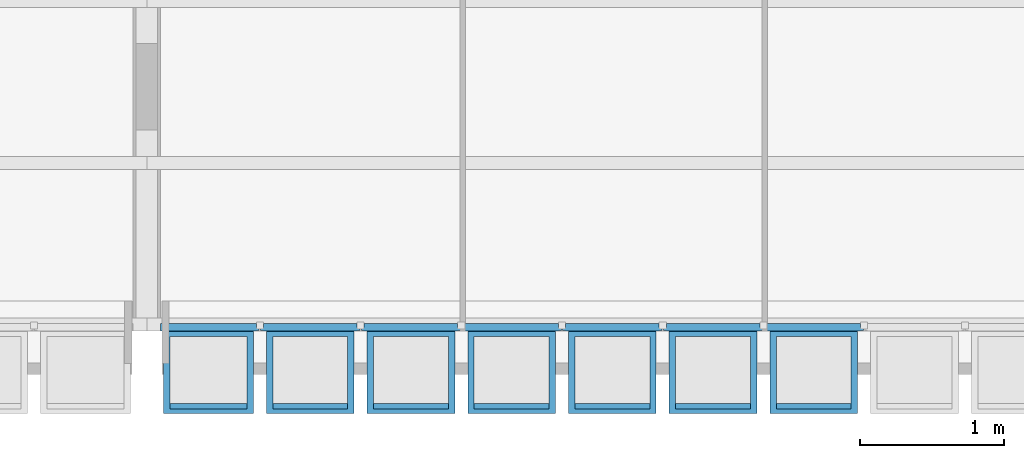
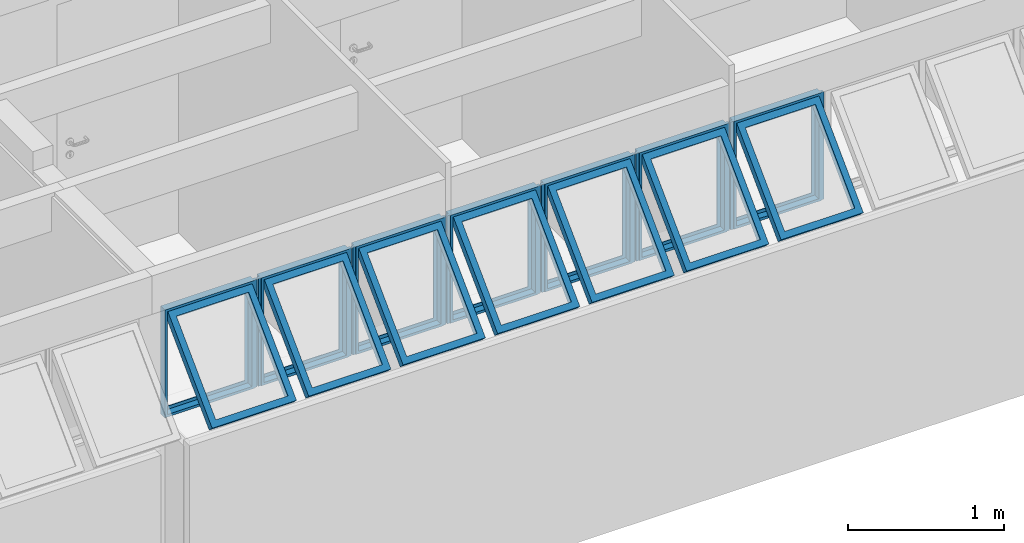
# One storey, part 28 of 37: 7 building element parts, 8 elements without a shape of their own.
"""IFC2X3 building model written with IfcOpenShell, lengths in millimetres."""

from ifc_helpers import new_model, entity, si_unit, converted_unit, derived_unit, money_unit, direction, frame, origin_with_axes, place, context, subcontext, project, spatial, faceted_brep, source, transform, mapped, material, type_object, element, aggregate, save


model = new_model("IFC2X3")

# Units and contexts
model_context = context("Model", 3, precision=0.01, world=origin_with_axes(), true_north=direction((0.0, 1.0)))
body_context = subcontext(model_context, "Body", "Model", "MODEL_VIEW")
ifc_project = project(units=[si_unit("LENGTHUNIT", "METRE", prefix="MILLI"), si_unit("AREAUNIT", "SQUARE_METRE"), si_unit("VOLUMEUNIT", "CUBIC_METRE"), converted_unit("PLANEANGLEUNIT", "DEGREE", entity("IfcPlaneAngleMeasure", 0.0174532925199), si_unit("PLANEANGLEUNIT", "RADIAN"), dimensions=[0, 0, 0, 0, 0, 0, 0]), money_unit("USD"), converted_unit("TIMEUNIT", "Year", entity("IfcTimeMeasure", 31556926.0), si_unit("TIMEUNIT", "SECOND"), dimensions=[0, 0, 1, 0, 0, 0, 0]), si_unit("MASSUNIT", "GRAM", prefix="KILO"), si_unit("THERMODYNAMICTEMPERATUREUNIT", "DEGREE_CELSIUS"), si_unit("LUMINOUSINTENSITYUNIT", "LUMEN"), si_unit("ENERGYUNIT", "JOULE", prefix="MEGA"), derived_unit("THERMALCONDUCTANCEUNIT", [(si_unit("POWERUNIT", "WATT"), 1), (si_unit("LENGTHUNIT", "METRE"), -1), (si_unit("THERMODYNAMICTEMPERATUREUNIT", "KELVIN"), -1)]), derived_unit("SPECIFICHEATCAPACITYUNIT", [(si_unit("ENERGYUNIT", "JOULE"), 1), (si_unit("MASSUNIT", "GRAM", prefix="KILO"), -1), (si_unit("THERMODYNAMICTEMPERATUREUNIT", "KELVIN"), -1)]), derived_unit("MASSDENSITYUNIT", [(si_unit("MASSUNIT", "GRAM", prefix="KILO"), 1), (si_unit("VOLUMEUNIT", "CUBIC_METRE"), -1)])], contexts=[model_context])

# Site, building, storey
site_placement = place(None, origin_with_axes())
site = spatial("IfcSite", under=ifc_project, at=site_placement, Name="Local", CompositionType="ELEMENT")
building_placement = place(site_placement, origin_with_axes())
building = spatial("IfcBuilding", under=site, at=building_placement, Name="Construção", CompositionType="ELEMENT")
storey_placement = place(building_placement, frame((0.0, 0.0, 5300.0), z_axis=(0.0, 0.0, 1.0), x_axis=(1.0, 0.0, 0.0)))
storey = spatial("IfcBuildingStorey", under=building, at=storey_placement, Name="Terceiro Pavimento", CompositionType="ELEMENT", Elevation=5300.0)

# Window, plates, building element parts
window_style = type_object("IfcWindowStyle", Name="Tipo de Parede Cortina", ConstructionType="NOTDEFINED", OperationType="NOTDEFINED", ParameterTakesPrecedence=False, Sizeable=False)
window_placement = place(storey_placement, frame((8520.0, 315.020977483, 1355.02054151), z_axis=(0.0, 0.0, 1.0), x_axis=(1.0, 0.0, 0.0)))
window = element("IfcWindow", 1, at=window_placement, inside=storey, type_object=window_style, Name="APTO10-JANELA-001")
plate_type_1 = type_object("IfcPlateType", Name="Painel Principal 690 x 845 x 20", PredefinedType="CURTAIN_PANEL")
plate_1_placement = place(window_placement, frame((0.0, 0.0, 422.499945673), z_axis=(0.0, 0.0, 1.0), x_axis=(1.0, 0.0, 0.0)))
plate_1 = element("IfcPlate", 2, at=plate_1_placement, type_object=plate_type_1, Name="APTO10-Painel-Prin-030")
ifc_material = material(Name="Alumínio")
shared_shape_1 = source(origin_with_axes(), body_context, "Body", "Brep", [
    faceted_brep([(-25.0000036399, 0.0, -40.0), (-25.0000036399, 0.0, -35.0), (-674.999997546, 0.0, -35.0), (-674.999997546, 0.0, -40.0), (-70.0000036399, 45.0, -40.0), (-70.0000036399, 45.0, -35.0), (-629.999997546, 45.0, -35.0), (-629.999997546, 45.0, -40.0)], [[[0, 1, 2, 3]], [[4, 5, 1, 0]], [[1, 5, 6, 2]], [[3, 2, 6, 7]], [[0, 3, 7, 4]], [[7, 6, 5, 4]]]),
    faceted_brep([(-674.999997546, 0.0, -40.0), (-674.999997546, 0.0, -35.0), (-674.999997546, 844.999891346, -35.0), (-674.999997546, 844.999891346, -40.0), (-629.999997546, 45.0, -40.0), (-629.999997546, 45.0, -35.0), (-629.999997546, 799.999891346, -35.0), (-629.999997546, 799.999891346, -40.0)], [[[0, 1, 2, 3]], [[4, 5, 1, 0]], [[1, 5, 6, 2]], [[3, 2, 6, 7]], [[0, 3, 7, 4]], [[7, 6, 5, 4]]]),
    faceted_brep([(-25.0000036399, 844.999891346, -40.0), (-25.0000036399, 844.999891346, -35.0), (-70.0000036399, 799.999891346, -35.0), (-70.0000036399, 799.999891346, -40.0), (-674.999997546, 844.999891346, -40.0), (-674.999997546, 844.999891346, -35.0), (-629.999997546, 799.999891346, -35.0), (-629.999997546, 799.999891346, -40.0)], [[[0, 1, 2, 3]], [[4, 5, 1, 0]], [[1, 5, 6, 2]], [[3, 2, 6, 7]], [[0, 3, 7, 4]], [[7, 6, 5, 4]]]),
    faceted_brep([(-25.0000036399, 0.0, -40.0), (-25.0000036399, 0.0, -35.0), (-70.0000036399, 45.0, -35.0), (-70.0000036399, 45.0, -40.0), (-25.0000036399, 844.999891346, -40.0), (-25.0000036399, 844.999891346, -35.0), (-70.0000036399, 799.999891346, -35.0), (-70.0000036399, 799.999891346, -40.0)], [[[0, 1, 2, 3]], [[4, 5, 1, 0]], [[1, 5, 6, 2]], [[3, 2, 6, 7]], [[0, 3, 7, 4]], [[7, 6, 5, 4]]]),
    faceted_brep([(-25.0000036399, 0.0, -35.0), (-25.0000036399, 0.0, 15.0), (-674.999997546, 0.0, 15.0), (-674.999997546, 0.0, -35.0), (-45.0000036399, 20.0, -35.0), (-45.0000036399, 20.0, 15.0), (-654.999997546, 20.0, 15.0), (-654.999997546, 20.0, -35.0)], [[[0, 1, 2, 3]], [[4, 5, 1, 0]], [[1, 5, 6, 2]], [[3, 2, 6, 7]], [[0, 3, 7, 4]], [[7, 6, 5, 4]]]),
    faceted_brep([(-674.999997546, 0.0, -35.0), (-674.999997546, 0.0, 15.0), (-674.999997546, 844.999891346, 15.0), (-674.999997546, 844.999891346, -35.0), (-654.999997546, 20.0, -35.0), (-654.999997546, 20.0, 15.0), (-654.999997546, 824.999891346, 15.0), (-654.999997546, 824.999891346, -35.0)], [[[0, 1, 2, 3]], [[4, 5, 1, 0]], [[1, 5, 6, 2]], [[3, 2, 6, 7]], [[0, 3, 7, 4]], [[7, 6, 5, 4]]]),
    faceted_brep([(-25.0000036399, 844.999891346, -35.0), (-25.0000036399, 844.999891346, 15.0), (-45.0000036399, 824.999891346, 15.0), (-45.0000036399, 824.999891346, -35.0), (-674.999997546, 844.999891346, -35.0), (-674.999997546, 844.999891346, 15.0), (-654.999997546, 824.999891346, 15.0), (-654.999997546, 824.999891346, -35.0)], [[[0, 1, 2, 3]], [[4, 5, 1, 0]], [[1, 5, 6, 2]], [[3, 2, 6, 7]], [[0, 3, 7, 4]], [[7, 6, 5, 4]]]),
    faceted_brep([(-25.0000036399, 0.0, -35.0), (-25.0000036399, 0.0, 15.0), (-45.0000036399, 20.0, 15.0), (-45.0000036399, 20.0, -35.0), (-25.0000036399, 844.999891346, -35.0), (-25.0000036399, 844.999891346, 15.0), (-45.0000036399, 824.999891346, 15.0), (-45.0000036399, 824.999891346, -35.0)], [[[0, 1, 2, 3]], [[4, 5, 1, 0]], [[1, 5, 6, 2]], [[3, 2, 6, 7]], [[0, 3, 7, 4]], [[7, 6, 5, 4]]]),
    faceted_brep([(-694.999995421, 0.0, -10.0), (-694.999995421, 0.0, 10.0), (-694.999995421, 844.999891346, 10.0), (-694.999995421, 844.999891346, -10.0), (-674.999997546, 0.0, -10.0), (-674.999997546, 0.0, 10.0), (-674.999997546, 844.999891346, 10.0), (-674.999997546, 844.999891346, -10.0)], [[[0, 1, 2, 3]], [[4, 5, 1, 0]], [[1, 5, 6, 2]], [[3, 2, 6, 7]], [[0, 3, 7, 4]], [[7, 6, 5, 4]]]),
    faceted_brep([(-5.00000576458, 844.999891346, -10.0), (-5.00000576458, 844.999891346, 10.0), (-5.00000576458, 0.0, 10.0), (-5.00000576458, 0.0, -10.0), (-25.0000036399, 844.999891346, -10.0), (-25.0000036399, 844.999891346, 10.0), (-25.0000036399, 0.0, 10.0), (-25.0000036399, 0.0, -10.0)], [[[0, 1, 2, 3]], [[4, 5, 1, 0]], [[1, 5, 6, 2]], [[3, 2, 6, 7]], [[0, 3, 7, 4]], [[7, 6, 5, 4]]]),
    faceted_brep([(-90.0000036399, 252.243475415, 517.045737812), (-90.0000036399, 291.13434838, 555.936610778), (-90.0000036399, 796.715620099, 50.3553390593), (-90.0000036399, 757.824747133, 11.4644660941), (-45.0000036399, 220.423670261, 548.865542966), (-45.0000036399, 259.314543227, 587.756415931), (-45.0000036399, 828.535425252, 18.5355339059), (-45.0000036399, 789.644552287, -20.3553390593)], [[[0, 1, 2, 3]], [[4, 5, 1, 0]], [[1, 5, 6, 2]], [[3, 2, 6, 7]], [[0, 3, 7, 4]], [[7, 6, 5, 4]]]),
    faceted_brep([(-654.999997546, 220.423670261, 548.865542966), (-654.999997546, 259.314543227, 587.756415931), (-654.999997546, 828.535425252, 18.5355339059), (-654.999997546, 789.644552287, -20.3553390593), (-609.999997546, 252.243475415, 517.045737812), (-609.999997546, 291.13434838, 555.936610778), (-609.999997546, 796.715620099, 50.3553390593), (-609.999997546, 757.824747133, 11.4644660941)], [[[0, 1, 2, 3]], [[4, 5, 1, 0]], [[1, 5, 6, 2]], [[3, 2, 6, 7]], [[0, 3, 7, 4]], [[7, 6, 5, 4]]]),
    faceted_brep([(-654.999997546, 220.423670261, 548.865542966), (-654.999997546, 259.314543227, 587.756415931), (-609.999997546, 291.13434838, 555.936610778), (-609.999997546, 252.243475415, 517.045737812), (-45.0000036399, 220.423670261, 548.865542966), (-45.0000036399, 259.314543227, 587.756415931), (-90.0000036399, 291.13434838, 555.936610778), (-90.0000036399, 252.243475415, 517.045737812)], [[[0, 1, 2, 3]], [[4, 5, 1, 0]], [[1, 5, 6, 2]], [[3, 2, 6, 7]], [[0, 3, 7, 4]], [[7, 6, 5, 4]]]),
    faceted_brep([(-45.0000036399, 789.644552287, -20.3553390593), (-45.0000036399, 828.535425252, 18.5355339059), (-90.0000036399, 796.715620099, 50.3553390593), (-90.0000036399, 757.824747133, 11.4644660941), (-654.999997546, 789.644552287, -20.3553390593), (-654.999997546, 828.535425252, 18.5355339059), (-609.999997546, 796.715620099, 50.3553390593), (-609.999997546, 757.824747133, 11.4644660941)], [[[0, 1, 2, 3]], [[4, 5, 1, 0]], [[1, 5, 6, 2]], [[3, 2, 6, 7]], [[0, 3, 7, 4]], [[7, 6, 5, 4]]]),
])
building_element_part_1_placement = place(plate_1_placement, origin_with_axes())
building_element_part_1 = element("IfcBuildingElementPart", 3, at=building_element_part_1_placement, material=ifc_material, Name="Alumínio", context=body_context, shape_type="MappedRepresentation", body=[
    mapped(shared_shape_1, transform((350.0, 0.0, -422.499945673), x_axis=(1.0, 0.0, 0.0), y_axis=(0.0, 0.0, 1.0), z_axis=(0.0, -1.0, 0.0))),
])
aggregate(plate_1, [building_element_part_1])
plate_2_placement = place(window_placement, frame((700.0, 0.0, 422.499945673), z_axis=(0.0, 0.0, 1.0), x_axis=(1.0, 0.0, 0.0)))
plate_2 = element("IfcPlate", 4, at=plate_2_placement, type_object=plate_type_1, Name="APTO10-Painel-Prin-020")
building_element_part_2_placement = place(plate_2_placement, origin_with_axes())
building_element_part_2 = element("IfcBuildingElementPart", 5, at=building_element_part_2_placement, material=ifc_material, Name="Alumínio", context=body_context, shape_type="MappedRepresentation", body=[
    mapped(shared_shape_1, transform((350.0, 0.0, -422.499945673), x_axis=(1.0, 0.0, 0.0), y_axis=(0.0, 0.0, 1.0), z_axis=(0.0, -1.0, 0.0))),
])
aggregate(plate_2, [building_element_part_2])
plate_3_placement = place(window_placement, frame((1400.0, 0.0, 422.499945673), z_axis=(0.0, 0.0, 1.0), x_axis=(1.0, 0.0, 0.0)))
plate_3 = element("IfcPlate", 6, at=plate_3_placement, type_object=plate_type_1, Name="APTO10-Painel-Prin-029")
building_element_part_3_placement = place(plate_3_placement, origin_with_axes())
building_element_part_3 = element("IfcBuildingElementPart", 7, at=building_element_part_3_placement, material=ifc_material, Name="Alumínio", context=body_context, shape_type="MappedRepresentation", body=[
    mapped(shared_shape_1, transform((350.0, 0.0, -422.499945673), x_axis=(1.0, 0.0, 0.0), y_axis=(0.0, 0.0, 1.0), z_axis=(0.0, -1.0, 0.0))),
])
aggregate(plate_3, [building_element_part_3])
plate_4_placement = place(window_placement, frame((3500.0, 0.0, 422.499945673), z_axis=(0.0, 0.0, 1.0), x_axis=(1.0, 0.0, 0.0)))
plate_4 = element("IfcPlate", 8, at=plate_4_placement, type_object=plate_type_1, Name="APTO10-Painel-Prin-013")
building_element_part_4_placement = place(plate_4_placement, origin_with_axes())
building_element_part_4 = element("IfcBuildingElementPart", 9, at=building_element_part_4_placement, material=ifc_material, Name="Alumínio", context=body_context, shape_type="MappedRepresentation", body=[
    mapped(shared_shape_1, transform((350.0, 0.0, -422.499945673), x_axis=(1.0, 0.0, 0.0), y_axis=(0.0, 0.0, 1.0), z_axis=(0.0, -1.0, 0.0))),
])
aggregate(plate_4, [building_element_part_4])
plate_5_placement = place(window_placement, frame((2100.0, 0.0, 422.499945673), z_axis=(0.0, 0.0, 1.0), x_axis=(1.0, 0.0, 0.0)))
plate_5 = element("IfcPlate", 10, at=plate_5_placement, type_object=plate_type_1, Name="APTO10-Painel-Prin-025")
shared_shape_2 = source(origin_with_axes(), body_context, "Body", "Brep", [
    faceted_brep([(-25.0000036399, 0.0, -40.0), (-25.0000036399, 0.0, -35.0), (-674.999997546, 0.0, -35.0), (-674.999997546, 0.0, -40.0), (-70.0000036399, 45.0, -40.0), (-70.0000036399, 45.0, -35.0), (-629.999997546, 45.0, -35.0), (-629.999997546, 45.0, -40.0)], [[[0, 1, 2, 3]], [[4, 5, 1, 0]], [[1, 5, 6, 2]], [[3, 2, 6, 7]], [[0, 3, 7, 4]], [[7, 6, 5, 4]]]),
    faceted_brep([(-674.999997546, 0.0, -40.0), (-674.999997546, 0.0, -35.0), (-674.999997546, 844.999891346, -35.0), (-674.999997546, 844.999891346, -40.0), (-629.999997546, 45.0, -40.0), (-629.999997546, 45.0, -35.0), (-629.999997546, 799.999891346, -35.0), (-629.999997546, 799.999891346, -40.0)], [[[0, 1, 2, 3]], [[4, 5, 1, 0]], [[1, 5, 6, 2]], [[3, 2, 6, 7]], [[0, 3, 7, 4]], [[7, 6, 5, 4]]]),
    faceted_brep([(-25.0000036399, 844.999891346, -40.0), (-25.0000036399, 844.999891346, -35.0), (-70.0000036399, 799.999891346, -35.0), (-70.0000036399, 799.999891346, -40.0), (-674.999997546, 844.999891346, -40.0), (-674.999997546, 844.999891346, -35.0), (-629.999997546, 799.999891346, -35.0), (-629.999997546, 799.999891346, -40.0)], [[[0, 1, 2, 3]], [[4, 5, 1, 0]], [[1, 5, 6, 2]], [[3, 2, 6, 7]], [[0, 3, 7, 4]], [[7, 6, 5, 4]]]),
    faceted_brep([(-25.0000036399, 0.0, -40.0), (-25.0000036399, 0.0, -35.0), (-70.0000036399, 45.0, -35.0), (-70.0000036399, 45.0, -40.0), (-25.0000036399, 844.999891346, -40.0), (-25.0000036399, 844.999891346, -35.0), (-70.0000036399, 799.999891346, -35.0), (-70.0000036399, 799.999891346, -40.0)], [[[0, 1, 2, 3]], [[4, 5, 1, 0]], [[1, 5, 6, 2]], [[3, 2, 6, 7]], [[0, 3, 7, 4]], [[7, 6, 5, 4]]]),
    faceted_brep([(-25.0000036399, 0.0, -35.0), (-25.0000036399, 0.0, 15.0), (-674.999997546, 0.0, 15.0), (-674.999997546, 0.0, -35.0), (-45.0000036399, 20.0, -35.0), (-45.0000036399, 20.0, 15.0), (-654.999997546, 20.0, 15.0), (-654.999997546, 20.0, -35.0)], [[[0, 1, 2, 3]], [[4, 5, 1, 0]], [[1, 5, 6, 2]], [[3, 2, 6, 7]], [[0, 3, 7, 4]], [[7, 6, 5, 4]]]),
    faceted_brep([(-674.999997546, 0.0, -35.0), (-674.999997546, 0.0, 15.0), (-674.999997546, 844.999891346, 15.0), (-674.999997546, 844.999891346, -35.0), (-654.999997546, 20.0, -35.0), (-654.999997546, 20.0, 15.0), (-654.999997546, 824.999891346, 15.0), (-654.999997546, 824.999891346, -35.0)], [[[0, 1, 2, 3]], [[4, 5, 1, 0]], [[1, 5, 6, 2]], [[3, 2, 6, 7]], [[0, 3, 7, 4]], [[7, 6, 5, 4]]]),
    faceted_brep([(-25.0000036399, 844.999891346, -35.0), (-25.0000036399, 844.999891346, 15.0), (-45.0000036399, 824.999891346, 15.0), (-45.0000036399, 824.999891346, -35.0), (-674.999997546, 844.999891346, -35.0), (-674.999997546, 844.999891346, 15.0), (-654.999997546, 824.999891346, 15.0), (-654.999997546, 824.999891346, -35.0)], [[[0, 1, 2, 3]], [[4, 5, 1, 0]], [[1, 5, 6, 2]], [[3, 2, 6, 7]], [[0, 3, 7, 4]], [[7, 6, 5, 4]]]),
    faceted_brep([(-25.0000036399, 0.0, -35.0), (-25.0000036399, 0.0, 15.0), (-45.0000036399, 20.0, 15.0), (-45.0000036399, 20.0, -35.0), (-25.0000036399, 844.999891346, -35.0), (-25.0000036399, 844.999891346, 15.0), (-45.0000036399, 824.999891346, 15.0), (-45.0000036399, 824.999891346, -35.0)], [[[0, 1, 2, 3]], [[4, 5, 1, 0]], [[1, 5, 6, 2]], [[3, 2, 6, 7]], [[0, 3, 7, 4]], [[7, 6, 5, 4]]]),
    faceted_brep([(-694.999995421, 0.0, -10.0), (-694.999995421, 0.0, 10.0), (-694.999995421, 844.999891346, 10.0), (-694.999995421, 844.999891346, -10.0), (-674.999997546, 0.0, -10.0), (-674.999997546, 0.0, 10.0), (-674.999997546, 844.999891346, 10.0), (-674.999997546, 844.999891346, -10.0)], [[[0, 1, 2, 3]], [[4, 5, 1, 0]], [[1, 5, 6, 2]], [[3, 2, 6, 7]], [[0, 3, 7, 4]], [[7, 6, 5, 4]]]),
    faceted_brep([(-5.00000576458, 844.999891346, -10.0), (-5.00000576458, 844.999891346, 10.0), (-5.00000576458, 0.0, 10.0), (-5.00000576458, 0.0, -10.0), (-25.0000036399, 844.999891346, -10.0), (-25.0000036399, 844.999891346, 10.0), (-25.0000036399, 0.0, 10.0), (-25.0000036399, 0.0, -10.0)], [[[0, 1, 2, 3]], [[4, 5, 1, 0]], [[1, 5, 6, 2]], [[3, 2, 6, 7]], [[0, 3, 7, 4]], [[7, 6, 5, 4]]]),
    faceted_brep([(-90.0000036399, 252.243475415, 517.045737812), (-90.0000036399, 291.13434838, 555.936610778), (-90.0000036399, 796.715620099, 50.3553390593), (-90.0000036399, 757.824747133, 11.4644660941), (-45.0000036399, 220.423670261, 548.865542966), (-45.0000036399, 259.314543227, 587.756415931), (-45.0000036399, 828.535425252, 18.5355339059), (-45.0000036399, 789.644552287, -20.3553390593)], [[[0, 1, 2, 3]], [[4, 5, 1, 0]], [[1, 5, 6, 2]], [[3, 2, 6, 7]], [[0, 3, 7, 4]], [[7, 6, 5, 4]]]),
    faceted_brep([(-654.999997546, 220.423670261, 548.865542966), (-654.999997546, 259.314543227, 587.756415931), (-654.999997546, 828.535425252, 18.5355339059), (-654.999997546, 789.644552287, -20.3553390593), (-609.999997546, 252.243475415, 517.045737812), (-609.999997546, 291.13434838, 555.936610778), (-609.999997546, 796.715620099, 50.3553390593), (-609.999997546, 757.824747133, 11.4644660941)], [[[0, 1, 2, 3]], [[4, 5, 1, 0]], [[1, 5, 6, 2]], [[3, 2, 6, 7]], [[0, 3, 7, 4]], [[7, 6, 5, 4]]]),
    faceted_brep([(-654.999997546, 220.423670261, 548.865542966), (-654.999997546, 259.314543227, 587.756415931), (-609.999997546, 291.13434838, 555.936610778), (-609.999997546, 252.243475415, 517.045737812), (-45.0000036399, 220.423670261, 548.865542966), (-45.0000036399, 259.314543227, 587.756415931), (-90.0000036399, 291.13434838, 555.936610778), (-90.0000036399, 252.243475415, 517.045737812)], [[[0, 1, 2, 3]], [[4, 5, 1, 0]], [[1, 5, 6, 2]], [[3, 2, 6, 7]], [[0, 3, 7, 4]], [[7, 6, 5, 4]]]),
    faceted_brep([(-45.0000036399, 789.644552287, -20.3553390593), (-45.0000036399, 828.535425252, 18.5355339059), (-90.0000036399, 796.715620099, 50.3553390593), (-90.0000036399, 757.824747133, 11.4644660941), (-654.999997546, 789.644552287, -20.3553390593), (-654.999997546, 828.535425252, 18.5355339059), (-609.999997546, 796.715620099, 50.3553390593), (-609.999997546, 757.824747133, 11.4644660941)], [[[0, 1, 2, 3]], [[4, 5, 1, 0]], [[1, 5, 6, 2]], [[3, 2, 6, 7]], [[0, 3, 7, 4]], [[7, 6, 5, 4]]]),
])
building_element_part_5_placement = place(plate_5_placement, origin_with_axes())
building_element_part_5 = element("IfcBuildingElementPart", 11, at=building_element_part_5_placement, material=ifc_material, Name="Alumínio", context=body_context, shape_type="MappedRepresentation", body=[
    mapped(shared_shape_2, transform((350.0, 0.0, -422.499945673), x_axis=(1.0, 0.0, 0.0), y_axis=(0.0, 0.0, 1.0), z_axis=(0.0, -1.0, 0.0))),
])
aggregate(plate_5, [building_element_part_5])
plate_6_placement = place(window_placement, frame((2800.0, 0.0, 422.499945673), z_axis=(0.0, 0.0, 1.0), x_axis=(1.0, 0.0, 0.0)))
plate_6 = element("IfcPlate", 12, at=plate_6_placement, type_object=plate_type_1, Name="APTO10-Painel-Prin-013")
shared_shape_3 = source(origin_with_axes(), body_context, "Body", "Brep", [
    faceted_brep([(-25.0000036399, 0.0, -40.0), (-25.0000036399, 0.0, -35.0), (-674.999997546, 0.0, -35.0), (-674.999997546, 0.0, -40.0), (-70.0000036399, 45.0, -40.0), (-70.0000036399, 45.0, -35.0), (-629.999997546, 45.0, -35.0), (-629.999997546, 45.0, -40.0)], [[[0, 1, 2, 3]], [[4, 5, 1, 0]], [[1, 5, 6, 2]], [[3, 2, 6, 7]], [[0, 3, 7, 4]], [[7, 6, 5, 4]]]),
    faceted_brep([(-674.999997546, 0.0, -40.0), (-674.999997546, 0.0, -35.0), (-674.999997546, 844.999891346, -35.0), (-674.999997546, 844.999891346, -40.0), (-629.999997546, 45.0, -40.0), (-629.999997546, 45.0, -35.0), (-629.999997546, 799.999891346, -35.0), (-629.999997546, 799.999891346, -40.0)], [[[0, 1, 2, 3]], [[4, 5, 1, 0]], [[1, 5, 6, 2]], [[3, 2, 6, 7]], [[0, 3, 7, 4]], [[7, 6, 5, 4]]]),
    faceted_brep([(-25.0000036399, 844.999891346, -40.0), (-25.0000036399, 844.999891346, -35.0), (-70.0000036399, 799.999891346, -35.0), (-70.0000036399, 799.999891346, -40.0), (-674.999997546, 844.999891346, -40.0), (-674.999997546, 844.999891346, -35.0), (-629.999997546, 799.999891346, -35.0), (-629.999997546, 799.999891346, -40.0)], [[[0, 1, 2, 3]], [[4, 5, 1, 0]], [[1, 5, 6, 2]], [[3, 2, 6, 7]], [[0, 3, 7, 4]], [[7, 6, 5, 4]]]),
    faceted_brep([(-25.0000036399, 0.0, -40.0), (-25.0000036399, 0.0, -35.0), (-70.0000036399, 45.0, -35.0), (-70.0000036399, 45.0, -40.0), (-25.0000036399, 844.999891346, -40.0), (-25.0000036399, 844.999891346, -35.0), (-70.0000036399, 799.999891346, -35.0), (-70.0000036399, 799.999891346, -40.0)], [[[0, 1, 2, 3]], [[4, 5, 1, 0]], [[1, 5, 6, 2]], [[3, 2, 6, 7]], [[0, 3, 7, 4]], [[7, 6, 5, 4]]]),
    faceted_brep([(-25.0000036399, 0.0, -35.0), (-25.0000036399, 0.0, 15.0), (-674.999997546, 0.0, 15.0), (-674.999997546, 0.0, -35.0), (-45.0000036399, 20.0, -35.0), (-45.0000036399, 20.0, 15.0), (-654.999997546, 20.0, 15.0), (-654.999997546, 20.0, -35.0)], [[[0, 1, 2, 3]], [[4, 5, 1, 0]], [[1, 5, 6, 2]], [[3, 2, 6, 7]], [[0, 3, 7, 4]], [[7, 6, 5, 4]]]),
    faceted_brep([(-674.999997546, 0.0, -35.0), (-674.999997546, 0.0, 15.0), (-674.999997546, 844.999891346, 15.0), (-674.999997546, 844.999891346, -35.0), (-654.999997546, 20.0, -35.0), (-654.999997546, 20.0, 15.0), (-654.999997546, 824.999891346, 15.0), (-654.999997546, 824.999891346, -35.0)], [[[0, 1, 2, 3]], [[4, 5, 1, 0]], [[1, 5, 6, 2]], [[3, 2, 6, 7]], [[0, 3, 7, 4]], [[7, 6, 5, 4]]]),
    faceted_brep([(-25.0000036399, 844.999891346, -35.0), (-25.0000036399, 844.999891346, 15.0), (-45.0000036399, 824.999891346, 15.0), (-45.0000036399, 824.999891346, -35.0), (-674.999997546, 844.999891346, -35.0), (-674.999997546, 844.999891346, 15.0), (-654.999997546, 824.999891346, 15.0), (-654.999997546, 824.999891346, -35.0)], [[[0, 1, 2, 3]], [[4, 5, 1, 0]], [[1, 5, 6, 2]], [[3, 2, 6, 7]], [[0, 3, 7, 4]], [[7, 6, 5, 4]]]),
    faceted_brep([(-25.0000036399, 0.0, -35.0), (-25.0000036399, 0.0, 15.0), (-45.0000036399, 20.0, 15.0), (-45.0000036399, 20.0, -35.0), (-25.0000036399, 844.999891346, -35.0), (-25.0000036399, 844.999891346, 15.0), (-45.0000036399, 824.999891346, 15.0), (-45.0000036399, 824.999891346, -35.0)], [[[0, 1, 2, 3]], [[4, 5, 1, 0]], [[1, 5, 6, 2]], [[3, 2, 6, 7]], [[0, 3, 7, 4]], [[7, 6, 5, 4]]]),
    faceted_brep([(-694.999995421, 0.0, -10.0), (-694.999995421, 0.0, 10.0), (-694.999995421, 844.999891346, 10.0), (-694.999995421, 844.999891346, -10.0), (-674.999997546, 0.0, -10.0), (-674.999997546, 0.0, 10.0), (-674.999997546, 844.999891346, 10.0), (-674.999997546, 844.999891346, -10.0)], [[[0, 1, 2, 3]], [[4, 5, 1, 0]], [[1, 5, 6, 2]], [[3, 2, 6, 7]], [[0, 3, 7, 4]], [[7, 6, 5, 4]]]),
    faceted_brep([(-5.00000576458, 844.999891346, -10.0), (-5.00000576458, 844.999891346, 10.0), (-5.00000576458, 0.0, 10.0), (-5.00000576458, 0.0, -10.0), (-25.0000036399, 844.999891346, -10.0), (-25.0000036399, 844.999891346, 10.0), (-25.0000036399, 0.0, 10.0), (-25.0000036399, 0.0, -10.0)], [[[0, 1, 2, 3]], [[4, 5, 1, 0]], [[1, 5, 6, 2]], [[3, 2, 6, 7]], [[0, 3, 7, 4]], [[7, 6, 5, 4]]]),
    faceted_brep([(-90.0000036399, 252.243475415, 517.045737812), (-90.0000036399, 291.13434838, 555.936610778), (-90.0000036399, 796.715620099, 50.3553390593), (-90.0000036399, 757.824747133, 11.4644660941), (-45.0000036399, 220.423670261, 548.865542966), (-45.0000036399, 259.314543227, 587.756415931), (-45.0000036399, 828.535425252, 18.5355339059), (-45.0000036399, 789.644552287, -20.3553390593)], [[[0, 1, 2, 3]], [[4, 5, 1, 0]], [[1, 5, 6, 2]], [[3, 2, 6, 7]], [[0, 3, 7, 4]], [[7, 6, 5, 4]]]),
    faceted_brep([(-654.999997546, 220.423670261, 548.865542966), (-654.999997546, 259.314543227, 587.756415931), (-654.999997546, 828.535425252, 18.5355339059), (-654.999997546, 789.644552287, -20.3553390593), (-609.999997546, 252.243475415, 517.045737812), (-609.999997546, 291.13434838, 555.936610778), (-609.999997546, 796.715620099, 50.3553390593), (-609.999997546, 757.824747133, 11.4644660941)], [[[0, 1, 2, 3]], [[4, 5, 1, 0]], [[1, 5, 6, 2]], [[3, 2, 6, 7]], [[0, 3, 7, 4]], [[7, 6, 5, 4]]]),
    faceted_brep([(-654.999997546, 220.423670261, 548.865542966), (-654.999997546, 259.314543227, 587.756415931), (-609.999997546, 291.13434838, 555.936610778), (-609.999997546, 252.243475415, 517.045737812), (-45.0000036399, 220.423670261, 548.865542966), (-45.0000036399, 259.314543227, 587.756415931), (-90.0000036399, 291.13434838, 555.936610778), (-90.0000036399, 252.243475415, 517.045737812)], [[[0, 1, 2, 3]], [[4, 5, 1, 0]], [[1, 5, 6, 2]], [[3, 2, 6, 7]], [[0, 3, 7, 4]], [[7, 6, 5, 4]]]),
    faceted_brep([(-45.0000036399, 789.644552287, -20.3553390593), (-45.0000036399, 828.535425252, 18.5355339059), (-90.0000036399, 796.715620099, 50.3553390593), (-90.0000036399, 757.824747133, 11.4644660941), (-654.999997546, 789.644552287, -20.3553390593), (-654.999997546, 828.535425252, 18.5355339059), (-609.999997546, 796.715620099, 50.3553390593), (-609.999997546, 757.824747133, 11.4644660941)], [[[0, 1, 2, 3]], [[4, 5, 1, 0]], [[1, 5, 6, 2]], [[3, 2, 6, 7]], [[0, 3, 7, 4]], [[7, 6, 5, 4]]]),
])
building_element_part_6_placement = place(plate_6_placement, origin_with_axes())
building_element_part_6 = element("IfcBuildingElementPart", 13, at=building_element_part_6_placement, material=ifc_material, Name="Alumínio", context=body_context, shape_type="MappedRepresentation", body=[
    mapped(shared_shape_3, transform((350.0, 0.0, -422.499945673), x_axis=(1.0, 0.0, 0.0), y_axis=(0.0, 0.0, 1.0), z_axis=(0.0, -1.0, 0.0))),
])
aggregate(plate_6, [building_element_part_6])
plate_type_2 = type_object("IfcPlateType", Name="Painel Principal 685 x 845 x 20", PredefinedType="CURTAIN_PANEL")
plate_7_placement = place(window_placement, frame((-695.000037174, 0.0, 422.499953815), z_axis=(0.0, 0.0, 1.0), x_axis=(1.0, 0.0, 0.0)))
plate_7 = element("IfcPlate", 14, at=plate_7_placement, type_object=plate_type_2, Name="APTO10-Painel-Prin-031")
aggregate(window, [plate_1, plate_7, plate_6, plate_5, plate_2, plate_3, plate_4])
shared_shape_4 = source(origin_with_axes(), body_context, "Body", "Brep", [
    faceted_brep([(-25.0000046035, 0.0, -40.0), (-25.0000046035, 0.0, -35.0), (-690.000079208, 0.0, -35.0), (-690.000079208, 0.0, -40.0), (-70.0000046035, 45.0, -40.0), (-70.0000046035, 45.0, -35.0), (-645.000079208, 45.0, -35.0), (-645.000079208, 45.0, -40.0)], [[[0, 1, 2, 3]], [[4, 5, 1, 0]], [[1, 5, 6, 2]], [[3, 2, 6, 7]], [[0, 3, 7, 4]], [[7, 6, 5, 4]]]),
    faceted_brep([(-690.000079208, 0.0, -40.0), (-690.000079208, 0.0, -35.0), (-690.000079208, 844.999923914, -35.0), (-690.000079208, 844.999923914, -40.0), (-645.000079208, 45.0, -40.0), (-645.000079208, 45.0, -35.0), (-645.000079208, 799.999923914, -35.0), (-645.000079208, 799.999923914, -40.0)], [[[0, 1, 2, 3]], [[4, 5, 1, 0]], [[1, 5, 6, 2]], [[3, 2, 6, 7]], [[0, 3, 7, 4]], [[7, 6, 5, 4]]]),
    faceted_brep([(-25.0000046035, 844.999923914, -40.0), (-25.0000046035, 844.999923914, -35.0), (-70.0000046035, 799.999923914, -35.0), (-70.0000046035, 799.999923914, -40.0), (-690.000079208, 844.999923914, -40.0), (-690.000079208, 844.999923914, -35.0), (-645.000079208, 799.999923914, -35.0), (-645.000079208, 799.999923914, -40.0)], [[[0, 1, 2, 3]], [[4, 5, 1, 0]], [[1, 5, 6, 2]], [[3, 2, 6, 7]], [[0, 3, 7, 4]], [[7, 6, 5, 4]]]),
    faceted_brep([(-25.0000046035, 0.0, -40.0), (-25.0000046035, 0.0, -35.0), (-70.0000046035, 45.0, -35.0), (-70.0000046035, 45.0, -40.0), (-25.0000046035, 844.999923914, -40.0), (-25.0000046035, 844.999923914, -35.0), (-70.0000046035, 799.999923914, -35.0), (-70.0000046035, 799.999923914, -40.0)], [[[0, 1, 2, 3]], [[4, 5, 1, 0]], [[1, 5, 6, 2]], [[3, 2, 6, 7]], [[0, 3, 7, 4]], [[7, 6, 5, 4]]]),
    faceted_brep([(-25.0000046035, 0.0, -35.0), (-25.0000046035, 0.0, 15.0), (-690.000079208, 0.0, 15.0), (-690.000079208, 0.0, -35.0), (-45.0000046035, 20.0, -35.0), (-45.0000046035, 20.0, 15.0), (-670.000079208, 20.0, 15.0), (-670.000079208, 20.0, -35.0)], [[[0, 1, 2, 3]], [[4, 5, 1, 0]], [[1, 5, 6, 2]], [[3, 2, 6, 7]], [[0, 3, 7, 4]], [[7, 6, 5, 4]]]),
    faceted_brep([(-690.000079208, 0.0, -35.0), (-690.000079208, 0.0, 15.0), (-690.000079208, 844.999923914, 15.0), (-690.000079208, 844.999923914, -35.0), (-670.000079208, 20.0, -35.0), (-670.000079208, 20.0, 15.0), (-670.000079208, 824.999923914, 15.0), (-670.000079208, 824.999923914, -35.0)], [[[0, 1, 2, 3]], [[4, 5, 1, 0]], [[1, 5, 6, 2]], [[3, 2, 6, 7]], [[0, 3, 7, 4]], [[7, 6, 5, 4]]]),
    faceted_brep([(-25.0000046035, 844.999923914, -35.0), (-25.0000046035, 844.999923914, 15.0), (-45.0000046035, 824.999923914, 15.0), (-45.0000046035, 824.999923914, -35.0), (-690.000079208, 844.999923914, -35.0), (-690.000079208, 844.999923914, 15.0), (-670.000079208, 824.999923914, 15.0), (-670.000079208, 824.999923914, -35.0)], [[[0, 1, 2, 3]], [[4, 5, 1, 0]], [[1, 5, 6, 2]], [[3, 2, 6, 7]], [[0, 3, 7, 4]], [[7, 6, 5, 4]]]),
    faceted_brep([(-25.0000046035, 0.0, -35.0), (-25.0000046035, 0.0, 15.0), (-45.0000046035, 20.0, 15.0), (-45.0000046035, 20.0, -35.0), (-25.0000046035, 844.999923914, -35.0), (-25.0000046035, 844.999923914, 15.0), (-45.0000046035, 824.999923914, 15.0), (-45.0000046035, 824.999923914, -35.0)], [[[0, 1, 2, 3]], [[4, 5, 1, 0]], [[1, 5, 6, 2]], [[3, 2, 6, 7]], [[0, 3, 7, 4]], [[7, 6, 5, 4]]]),
    faceted_brep([(-5.00000595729, 844.999923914, -10.0), (-5.00000595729, 844.999923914, 10.0), (-5.00000595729, 0.0, 10.0), (-5.00000595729, 0.0, -10.0), (-25.0000046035, 844.999923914, -10.0), (-25.0000046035, 844.999923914, 10.0), (-25.0000046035, 0.0, 10.0), (-25.0000046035, 0.0, -10.0)], [[[0, 1, 2, 3]], [[4, 5, 1, 0]], [[1, 5, 6, 2]], [[3, 2, 6, 7]], [[0, 3, 7, 4]], [[7, 6, 5, 4]]]),
    faceted_brep([(-90.0000046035, 252.243484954, 517.045760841), (-90.0000046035, 291.134357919, 555.936633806), (-90.0000046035, 796.715652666, 50.3553390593), (-90.0000046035, 757.824779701, 11.4644660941), (-45.0000046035, 220.4236798, 548.865565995), (-45.0000046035, 259.314552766, 587.75643896), (-45.0000046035, 828.535457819, 18.5355339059), (-45.0000046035, 789.644584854, -20.3553390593)], [[[0, 1, 2, 3]], [[4, 5, 1, 0]], [[1, 5, 6, 2]], [[3, 2, 6, 7]], [[0, 3, 7, 4]], [[7, 6, 5, 4]]]),
    faceted_brep([(-670.000079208, 220.4236798, 548.865565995), (-670.000079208, 259.314552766, 587.75643896), (-670.000079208, 828.535457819, 18.5355339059), (-670.000079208, 789.644584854, -20.3553390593), (-625.000079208, 252.243484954, 517.045760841), (-625.000079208, 291.134357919, 555.936633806), (-625.000079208, 796.715652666, 50.3553390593), (-625.000079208, 757.824779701, 11.4644660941)], [[[0, 1, 2, 3]], [[4, 5, 1, 0]], [[1, 5, 6, 2]], [[3, 2, 6, 7]], [[0, 3, 7, 4]], [[7, 6, 5, 4]]]),
    faceted_brep([(-670.000079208, 220.4236798, 548.865565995), (-670.000079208, 259.314552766, 587.75643896), (-625.000079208, 291.134357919, 555.936633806), (-625.000079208, 252.243484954, 517.045760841), (-45.0000046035, 220.4236798, 548.865565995), (-45.0000046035, 259.314552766, 587.75643896), (-90.0000046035, 291.134357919, 555.936633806), (-90.0000046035, 252.243484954, 517.045760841)], [[[0, 1, 2, 3]], [[4, 5, 1, 0]], [[1, 5, 6, 2]], [[3, 2, 6, 7]], [[0, 3, 7, 4]], [[7, 6, 5, 4]]]),
    faceted_brep([(-45.0000046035, 789.644584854, -20.3553390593), (-45.0000046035, 828.535457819, 18.5355339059), (-90.0000046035, 796.715652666, 50.3553390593), (-90.0000046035, 757.824779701, 11.4644660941), (-670.000079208, 789.644584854, -20.3553390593), (-670.000079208, 828.535457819, 18.5355339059), (-625.000079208, 796.715652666, 50.3553390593), (-625.000079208, 757.824779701, 11.4644660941)], [[[0, 1, 2, 3]], [[4, 5, 1, 0]], [[1, 5, 6, 2]], [[3, 2, 6, 7]], [[0, 3, 7, 4]], [[7, 6, 5, 4]]]),
])
building_element_part_7_placement = place(plate_7_placement, origin_with_axes())
building_element_part_7 = element("IfcBuildingElementPart", 15, at=building_element_part_7_placement, material=ifc_material, Name="Alumínio", context=body_context, shape_type="MappedRepresentation", body=[
    mapped(shared_shape_4, transform((345.000037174, 0.0, -422.499953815), x_axis=(1.0, 0.0, 0.0), y_axis=(0.0, 0.0, 1.0), z_axis=(0.0, -1.0, 0.0))),
])
aggregate(plate_7, [building_element_part_7])

save(model, "model.ifc")
